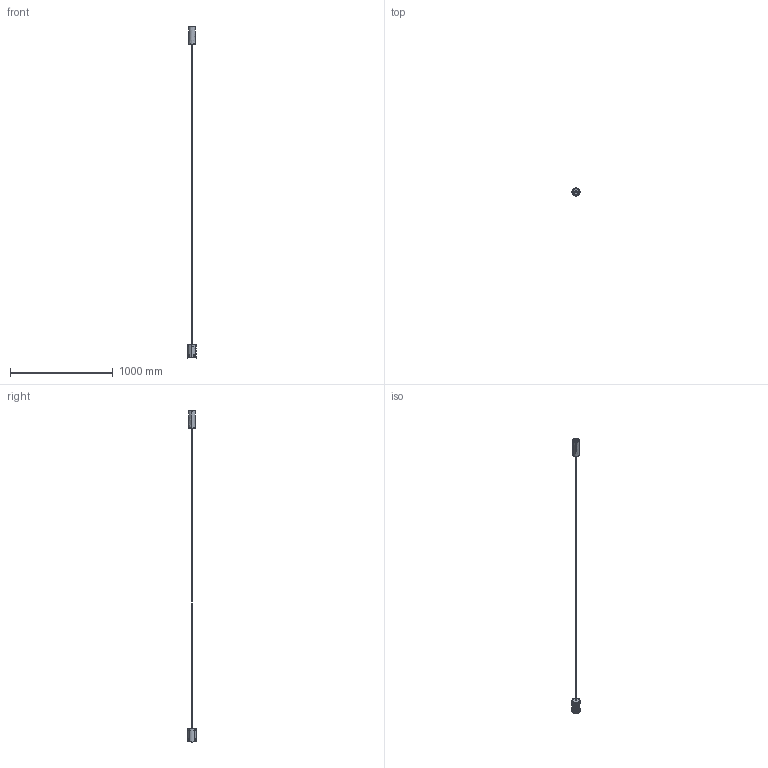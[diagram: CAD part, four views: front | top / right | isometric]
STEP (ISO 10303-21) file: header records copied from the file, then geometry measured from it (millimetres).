
FILE_DESCRIPTION(/* description */ (''),/* implementation_level */ '2;1');
FILE_NAME(/* name */ '432 Ways L127__.008',/* time_stamp */ '2025-05-27T12:26:45+02:00',/* author */ (''),/* organization */ (''),/* preprocessor_version */ 'ST-DEVELOPER v16.5',/* originating_system */ '',/* authorisation */ '');
FILE_SCHEMA (('AUTOMOTIVE_DESIGN'));
Length unit declared in the file: millimetre
Products named in the file (8): Document; piattello di chiusura sosp_80; 3300.0487000.00 (testata di chiusura cilindrica ALL con filetto ester
no)_3307.0487008.00; 3100.0106000.00 (lente semisferica PC)_3100.0106008.00; 3300.0530000.00 (tubo rosone ALL Ø 65mm sp 2)_3306.0530017.00; 3200.0877000.00 (staffa rosone ACC Ø 60,7mm H 160,7mm sp 1,2)_321
0.0877001.00 - in opera 2; 3200.0876000.00 (testata rosone ACC Ø 60,7mm sp 1,2)_3201.0876000.
00; 3200.0875000.00 (staffa rosone ACC 60x55,8x161,7mm sp 1,2)_3209.08750
16.00 - in opera 2
Assembly tree (7 placements, depth 3):
  Document
    piattello di chiusura sosp_80
    3300.0487000.00 (testata di chiusura cilindrica ALL con filetto ester
no)_3307.0487008.00
    3100.0106000.00 (lente semisferica PC)_3100.0106008.00
    3300.0530000.00 (tubo rosone ALL Ø 65mm sp 2)_3306.0530017.00
    3200.0877000.00 (staffa rosone ACC Ø 60,7mm H 160,7mm sp 1,2)_321
0.0877001.00 - in opera 2
      3200.0876000.00 (testata rosone ACC Ø 60,7mm sp 1,2)_3201.0876000.
00
      3200.0875000.00 (staffa rosone ACC 60x55,8x161,7mm sp 1,2)_3209.08750
16.00 - in opera 2
Bounding box: 79.93 x 80 x 3234.9 mm (x, y, z)
Volume: 331621.3 mm3; surface area: 335798.2 mm2
Topology: 10 solids, 10 shells, 591 faces, 1598 edges, 1023 vertices
Faces by surface type: bspline 337, plane 254
Entity records: 24406 total; most frequent: CARTESIAN_POINT 14722, ORIENTED_EDGE 3180, EDGE_CURVE 1590, VERTEX_POINT 1023, B_SPLINE_CURVE_WITH_KNOTS 978, EDGE_LOOP 645, ADVANCED_FACE 591, FACE_OUTER_BOUND 591
